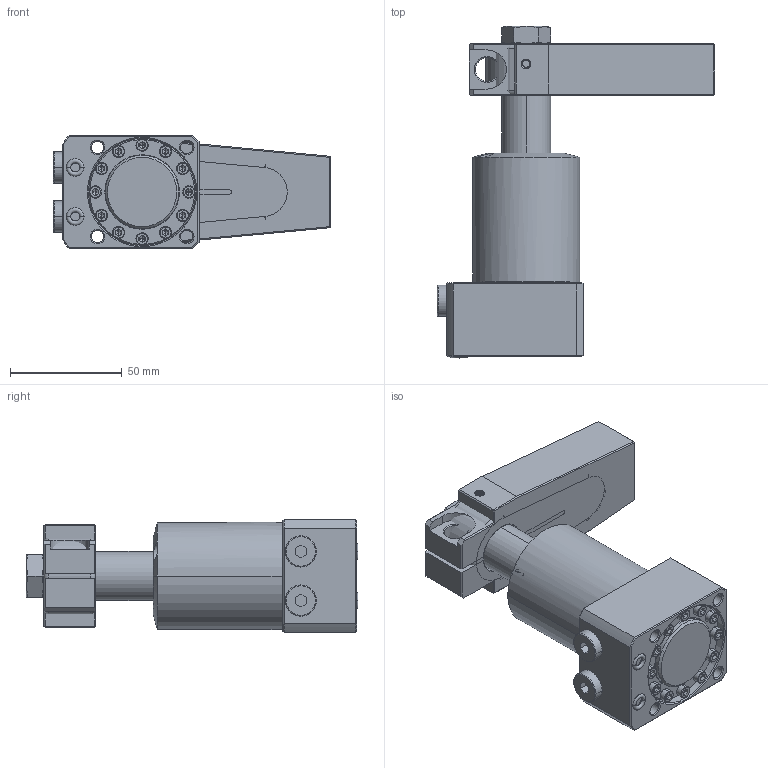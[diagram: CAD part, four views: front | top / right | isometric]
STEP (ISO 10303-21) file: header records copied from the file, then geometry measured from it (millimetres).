
FILE_DESCRIPTION((''),'2;1');
FILE_NAME('SIMP_GENERIC_SWING_CYD_48_ASM','2023-04-16T11:41:32',('Design 2'),(''),'CREO PARAMETRIC BY PTC INC, 2020053','CREO PARAMETRIC BY PTC INC, 2020053','');
FILE_SCHEMA(('CONFIG_CONTROL_DESIGN'));
Length unit declared in the file: millimetre
Products named in the file (16): BODY__; BODY_TOP_FLG___ASM; PISTON__; PISTON_ASM___ASM; SWINGER_ARM__; SWINGER_ARM_ASM___ASM; CLAMP__; HEXAGON_NUT__; CLAMP_2ND_TYPE__; G-1-8-CLOSE_PLUGE; STATIC-O-RING-8X2__; 1__; 2__; HALDER-SEALING-PLUG-228800005___ASM; ISHCS03X12; SIMP_GENERIC_SWING_CYD_48_ASM
Assembly tree (28 placements, depth 3):
  SIMP_GENERIC_SWING_CYD_48_ASM
    BODY_TOP_FLG___ASM
      BODY__
    PISTON_ASM___ASM
      PISTON__
    SWINGER_ARM_ASM___ASM
      SWINGER_ARM__
    CLAMP__
    HEXAGON_NUT__
    CLAMP_2ND_TYPE__
    G-1-8-CLOSE_PLUGE  x2
    STATIC-O-RING-8X2__  x2
    HALDER-SEALING-PLUG-228800005___ASM
      1__
      2__
    ISHCS03X12  x12
Bounding box: 124.3 x 148.7 x 51 mm (x, y, z)
Volume: 336816 mm3; surface area: 80850.2 mm2
Topology: 24 solids, 24 shells, 996 faces, 2281 edges, 1348 vertices
Faces by surface type: cylinder 327, plane 316, cone 240, bspline 56, torus 54, sphere 3
Entity records: 29801 total; most frequent: CARTESIAN_POINT 15526, ORIENTED_EDGE 2942, DIRECTION 2801, EDGE_CURVE 1471, AXIS2_PLACEMENT_3D 1065, VERTEX_POINT 898, EDGE_LOOP 691, VECTOR 671
